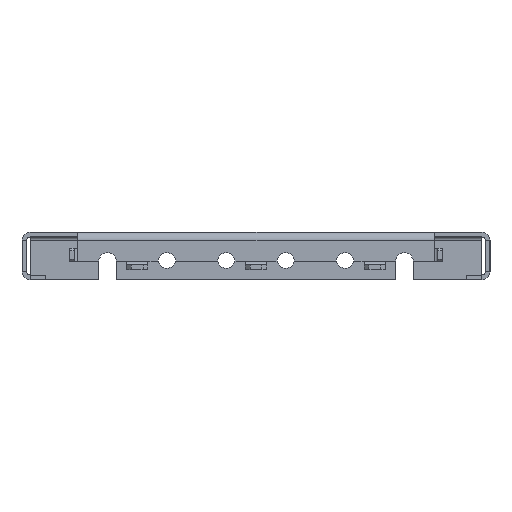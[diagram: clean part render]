
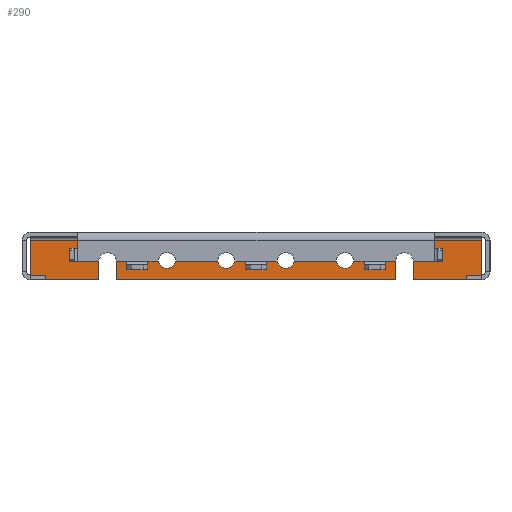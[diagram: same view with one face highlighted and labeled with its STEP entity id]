
A CAD part, left-side view. The second image highlights one B-rep face of the part: STEP entity #290.
In plain terms, the highlighted planar face has unit normal (-1, 0, 0).
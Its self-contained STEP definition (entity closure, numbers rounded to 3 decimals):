
#290=ADVANCED_FACE('',(#2302,#2304,#2306,#2308,#2310),#2312,.F.);
#2302=FACE_BOUND('',#2303,.T.);
#2303=EDGE_LOOP('',(#4741,#4742,#4743,#4744,#4745,#4746,#4747,#4748,#4749,#4750,
#4751,#4752));
#2304=FACE_BOUND('',#2305,.T.);
#2305=EDGE_LOOP('',(#4753));
#2306=FACE_BOUND('',#2307,.T.);
#2307=EDGE_LOOP('',(#4754));
#2308=FACE_BOUND('',#2309,.T.);
#2309=EDGE_LOOP('',(#4755));
#2310=FACE_BOUND('',#2311,.T.);
#2311=EDGE_LOOP('',(#4756));
#2312=PLANE('',#2313);
#2313=AXIS2_PLACEMENT_3D('',#2314,#2315,#2316);
#2314=CARTESIAN_POINT('',(141.15,0.,0.));
#2315=DIRECTION('',(1.,0.,0.));
#2316=DIRECTION('',(0.,0.,-1.));
#4741=ORIENTED_EDGE('',*,*,#6597,.F.);
#4742=ORIENTED_EDGE('',*,*,#6598,.T.);
#4743=ORIENTED_EDGE('',*,*,#6599,.F.);
#4744=ORIENTED_EDGE('',*,*,#6600,.T.);
#4745=ORIENTED_EDGE('',*,*,#6601,.T.);
#4746=ORIENTED_EDGE('',*,*,#6602,.F.);
#4747=ORIENTED_EDGE('',*,*,#6603,.T.);
#4748=ORIENTED_EDGE('',*,*,#6604,.T.);
#4749=ORIENTED_EDGE('',*,*,#6605,.T.);
#4750=ORIENTED_EDGE('',*,*,#6606,.T.);
#4751=ORIENTED_EDGE('',*,*,#6607,.T.);
#4752=ORIENTED_EDGE('',*,*,#6608,.T.);
#4753=ORIENTED_EDGE('',*,*,#5940,.T.);
#4754=ORIENTED_EDGE('',*,*,#5938,.T.);
#4755=ORIENTED_EDGE('',*,*,#5936,.T.);
#4756=ORIENTED_EDGE('',*,*,#5934,.T.);
#5934=EDGE_CURVE('',#6967,#6967,#6968,.T.);
#5936=EDGE_CURVE('',#6971,#6971,#6972,.T.);
#5938=EDGE_CURVE('',#6975,#6975,#6976,.T.);
#5940=EDGE_CURVE('',#6979,#6979,#6980,.T.);
#6597=EDGE_CURVE('',#8169,#8170,#8171,.T.);
#6598=EDGE_CURVE('',#8169,#8172,#8173,.T.);
#6599=EDGE_CURVE('',#8174,#8172,#8175,.T.);
#6600=EDGE_CURVE('',#8174,#8176,#8177,.T.);
#6601=EDGE_CURVE('',#8176,#8178,#8179,.T.);
#6602=EDGE_CURVE('',#8180,#8178,#8181,.T.);
#6603=EDGE_CURVE('',#8180,#8182,#8183,.T.);
#6604=EDGE_CURVE('',#8182,#8184,#8185,.T.);
#6605=EDGE_CURVE('',#8184,#8186,#8187,.T.);
#6606=EDGE_CURVE('',#8186,#8188,#8189,.T.);
#6607=EDGE_CURVE('',#8188,#8190,#8191,.T.);
#6608=EDGE_CURVE('',#8190,#8170,#8192,.T.);
#6967=VERTEX_POINT('',#8666);
#6968=CIRCLE('',#8667,3.65);
#6971=VERTEX_POINT('',#8676);
#6972=CIRCLE('',#8677,3.65);
#6975=VERTEX_POINT('',#8686);
#6976=CIRCLE('',#8687,3.65);
#6979=VERTEX_POINT('',#8696);
#6980=CIRCLE('',#8697,3.65);
#8169=VERTEX_POINT('',#11543);
#8170=VERTEX_POINT('',#11544);
#8171=LINE('',#11545,#11546);
#8172=VERTEX_POINT('',#11548);
#8173=CIRCLE('',#11549,3.65);
#8174=VERTEX_POINT('',#11553);
#8175=LINE('',#11554,#11555);
#8176=VERTEX_POINT('',#11557);
#8177=LINE('',#11558,#11559);
#8178=VERTEX_POINT('',#11561);
#8179=LINE('',#11562,#11563);
#8180=VERTEX_POINT('',#11565);
#8181=LINE('',#11566,#11567);
#8182=VERTEX_POINT('',#11569);
#8183=LINE('',#11570,#11571);
#8184=VERTEX_POINT('',#11573);
#8185=LINE('',#11574,#11575);
#8186=VERTEX_POINT('',#11577);
#8187=LINE('',#11578,#11579);
#8188=VERTEX_POINT('',#11581);
#8189=CIRCLE('',#11582,3.65);
#8190=VERTEX_POINT('',#11586);
#8191=LINE('',#11587,#11588);
#8192=LINE('',#11590,#11591);
#8666=CARTESIAN_POINT('',(141.15,37.5,-15.15));
#8667=AXIS2_PLACEMENT_3D('',#8668,#8669,#8670);
#8668=CARTESIAN_POINT('',(141.15,37.5,-11.5));
#8669=DIRECTION('',(1.,0.,0.));
#8670=DIRECTION('',(0.,0.,1.));
#8676=CARTESIAN_POINT('',(141.15,-37.5,-15.15));
#8677=AXIS2_PLACEMENT_3D('',#8678,#8679,#8680);
#8678=CARTESIAN_POINT('',(141.15,-37.5,-11.5));
#8679=DIRECTION('',(1.,0.,0.));
#8680=DIRECTION('',(0.,0.,1.));
#8686=CARTESIAN_POINT('',(141.15,-12.5,-15.15));
#8687=AXIS2_PLACEMENT_3D('',#8688,#8689,#8690);
#8688=CARTESIAN_POINT('',(141.15,-12.5,-11.5));
#8689=DIRECTION('',(1.,0.,0.));
#8690=DIRECTION('',(0.,0.,1.));
#8696=CARTESIAN_POINT('',(141.15,12.5,-15.15));
#8697=AXIS2_PLACEMENT_3D('',#8698,#8699,#8700);
#8698=CARTESIAN_POINT('',(141.15,12.5,-11.5));
#8699=DIRECTION('',(1.,0.,0.));
#8700=DIRECTION('',(0.,0.,1.));
#11543=CARTESIAN_POINT('',(141.15,-58.85,-11.5));
#11544=CARTESIAN_POINT('',(141.15,-58.85,-20.));
#11545=CARTESIAN_POINT('',(141.15,-58.85,-11.5));
#11546=VECTOR('',#11547,1.);
#11547=DIRECTION('',(0.,0.,-1.));
#11548=CARTESIAN_POINT('',(141.15,-66.15,-11.5));
#11549=AXIS2_PLACEMENT_3D('',#11550,#11551,#11552);
#11550=CARTESIAN_POINT('',(141.15,-62.5,-11.5));
#11551=DIRECTION('',(1.,0.,0.));
#11552=DIRECTION('',(0.,1.,0.));
#11553=CARTESIAN_POINT('',(141.15,-66.15,-20.));
#11554=CARTESIAN_POINT('',(141.15,-66.15,-20.));
#11555=VECTOR('',#11556,1.);
#11556=DIRECTION('',(0.,0.,1.));
#11557=CARTESIAN_POINT('',(141.15,-95.1,-20.));
#11558=CARTESIAN_POINT('',(141.15,-66.15,-20.));
#11559=VECTOR('',#11560,1.);
#11560=DIRECTION('',(0.,-1.,0.));
#11561=CARTESIAN_POINT('',(141.15,-95.1,-3.4));
#11562=CARTESIAN_POINT('',(141.15,-95.1,-20.));
#11563=VECTOR('',#11564,1.);
#11564=DIRECTION('',(0.,0.,1.));
#11565=CARTESIAN_POINT('',(141.15,95.1,-3.4));
#11566=CARTESIAN_POINT('',(141.15,95.1,-3.4));
#11567=VECTOR('',#11568,1.);
#11568=DIRECTION('',(0.,-1.,0.));
#11569=CARTESIAN_POINT('',(141.15,95.1,-20.));
#11570=CARTESIAN_POINT('',(141.15,95.1,-3.4));
#11571=VECTOR('',#11572,1.);
#11572=DIRECTION('',(0.,0.,-1.));
#11573=CARTESIAN_POINT('',(141.15,66.15,-20.));
#11574=CARTESIAN_POINT('',(141.15,95.1,-20.));
#11575=VECTOR('',#11576,1.);
#11576=DIRECTION('',(0.,-1.,0.));
#11577=CARTESIAN_POINT('',(141.15,66.15,-11.5));
#11578=CARTESIAN_POINT('',(141.15,66.15,-20.));
#11579=VECTOR('',#11580,1.);
#11580=DIRECTION('',(0.,0.,1.));
#11581=CARTESIAN_POINT('',(141.15,58.85,-11.5));
#11582=AXIS2_PLACEMENT_3D('',#11583,#11584,#11585);
#11583=CARTESIAN_POINT('',(141.15,62.5,-11.5));
#11584=DIRECTION('',(1.,0.,0.));
#11585=DIRECTION('',(0.,1.,0.));
#11586=CARTESIAN_POINT('',(141.15,58.85,-20.));
#11587=CARTESIAN_POINT('',(141.15,58.85,-11.5));
#11588=VECTOR('',#11589,1.);
#11589=DIRECTION('',(0.,0.,-1.));
#11590=CARTESIAN_POINT('',(141.15,58.85,-20.));
#11591=VECTOR('',#11592,1.);
#11592=DIRECTION('',(0.,-1.,0.));
